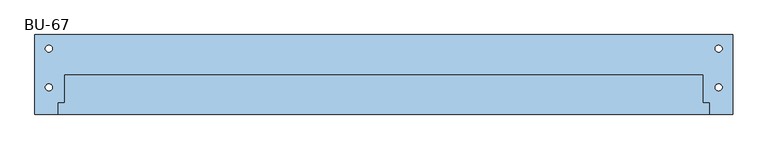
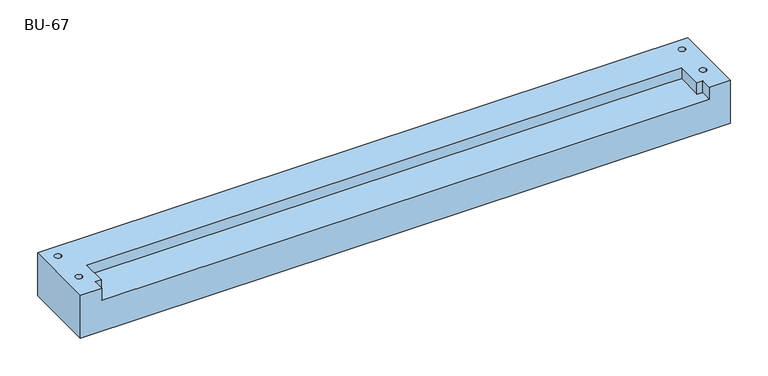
"""IFC4 building model written with IfcOpenShell, lengths in millimetres: window geometry, 30_NS_BU_67-72 : BU-67."""

from ifc_helpers import new_model, si_unit, frame, origin, place, context, project, spatial, polyline, circle_curve, source, transform, mapped, element, save
from ifc_brep_helpers import plane_surface, revolved_surface, advanced_brep


def bu_67_48a63875(model_context):
    return source(origin(), model_context, "Body", "AdvancedBrep", [
        advanced_brep(
        [(0.0, -114.0, 0.0), (0.0, 0.0, 0.0), (933.0, 0.0, 0.0), (1000.0, 0.0, 0.0), (1000.0, -114.0, 0.0), (15.0, -75.4521719, 0.0), (25.0, -75.4521719, 0.0), (15.0, -20.0, 0.0), (25.0, -20.0, 0.0), (975.0, -20.0, 0.0), (985.0, -20.0, 0.0), (975.0, -75.4521719, 0.0), (985.0, -75.4521719, 0.0), (0.0, -114.0, 70.0), (33.0, -114.0, 70.0), (33.0, -97.0, 70.0), (42.0, -97.0, 70.0), (42.0, -57.0, 70.0), (958.0, -57.0, 70.0), (958.0, -97.0, 70.0), (967.0, -97.0, 70.0), (967.0, -114.0, 70.0), (1000.0, -114.0, 70.0), (1000.0, 0.0, 70.0), (0.0, 0.0, 70.0), (25.0, -75.4521719, 70.0), (15.0, -75.4521719, 70.0), (25.0, -20.0, 70.0), (15.0, -20.0, 70.0), (985.0, -20.0, 70.0), (975.0, -20.0, 70.0), (985.0, -75.4521719, 70.0), (975.0, -75.4521719, 70.0), (42.0, -57.0, 52.6427741), (42.0, -97.0, 50.9631857), (33.0, -97.0, 50.9631857), (33.0, -114.0, 50.2493606), (967.0, -114.0, 50.2493606), (967.0, -97.0, 50.9631857), (958.0, -97.0, 50.9631857), (958.0, -57.0, 52.6427741), (933.0, -57.0, 52.6427741)],
        [
            (0, 1),
            (1, 2),
            (2, 3),
            (3, 4),
            (4, 0),
            (5, 6, circle_curve(frame((20.0, -75.4521719, 0.0), z_axis=(0.0, 0.0, 1.0), x_axis=(1.0, 0.0, 0.0)), 5.0)),
            (6, 5, circle_curve(frame((20.0, -75.4521719, 0.0), z_axis=(0.0, 0.0, 1.0), x_axis=(1.0, 0.0, 0.0)), 5.0)),
            (7, 8, circle_curve(frame((20.0, -20.0, 0.0), z_axis=(0.0, 0.0, 1.0), x_axis=(1.0, 0.0, 0.0)), 5.0)),
            (8, 7, circle_curve(frame((20.0, -20.0, 0.0), z_axis=(0.0, 0.0, 1.0), x_axis=(1.0, 0.0, 0.0)), 5.0)),
            (9, 10, circle_curve(frame((980.0, -20.0, 0.0), z_axis=(0.0, 0.0, 1.0), x_axis=(1.0, 0.0, 0.0)), 5.0)),
            (10, 9, circle_curve(frame((980.0, -20.0, 0.0), z_axis=(0.0, 0.0, 1.0), x_axis=(1.0, 0.0, 0.0)), 5.0)),
            (11, 12, circle_curve(frame((980.0, -75.4521719, 0.0), z_axis=(0.0, 0.0, 1.0), x_axis=(1.0, 0.0, 0.0)), 5.0)),
            (12, 11, circle_curve(frame((980.0, -75.4521719, 0.0), z_axis=(0.0, 0.0, 1.0), x_axis=(1.0, 0.0, 0.0)), 5.0)),
            (13, 14),
            (14, 15),
            (15, 16),
            (16, 17),
            (17, 18),
            (18, 19),
            (19, 20),
            (20, 21),
            (21, 22),
            (22, 23),
            (23, 24),
            (24, 13),
            (25, 26, circle_curve(frame((20.0, -75.4521719, 70.0), z_axis=(0.0, 0.0, -1.0), x_axis=(1.0, 0.0, 0.0)), 5.0)),
            (26, 25, circle_curve(frame((20.0, -75.4521719, 70.0), z_axis=(0.0, 0.0, -1.0), x_axis=(1.0, 0.0, 0.0)), 5.0)),
            (27, 28, circle_curve(frame((20.0, -20.0, 70.0), z_axis=(0.0, 0.0, -1.0), x_axis=(1.0, 0.0, 0.0)), 5.0)),
            (28, 27, circle_curve(frame((20.0, -20.0, 70.0), z_axis=(0.0, 0.0, -1.0), x_axis=(1.0, 0.0, 0.0)), 5.0)),
            (29, 30, circle_curve(frame((980.0, -20.0, 70.0), z_axis=(0.0, 0.0, -1.0), x_axis=(1.0, 0.0, 0.0)), 5.0)),
            (30, 29, circle_curve(frame((980.0, -20.0, 70.0), z_axis=(0.0, 0.0, -1.0), x_axis=(1.0, 0.0, 0.0)), 5.0)),
            (31, 32, circle_curve(frame((980.0, -75.4521719, 70.0), z_axis=(0.0, 0.0, -1.0), x_axis=(1.0, 0.0, 0.0)), 5.0)),
            (32, 31, circle_curve(frame((980.0, -75.4521719, 70.0), z_axis=(0.0, 0.0, -1.0), x_axis=(1.0, 0.0, 0.0)), 5.0)),
            (3, 23),
            (22, 4),
            (33, 34),
            (34, 35),
            (35, 36),
            (36, 37),
            (37, 38),
            (38, 39),
            (39, 40),
            (40, 41),
            (41, 33),
            (5, 26),
            (25, 6),
            (7, 28),
            (27, 8),
            (9, 30),
            (29, 10),
            (11, 32),
            (31, 12),
            (17, 33),
            (40, 18),
            (16, 34),
            (15, 35),
            (14, 36),
            (13, 0),
            (21, 37),
            (24, 1),
            (20, 38),
            (19, 39),
        ],
        [
            plane_surface(frame((0.0, 0.0, 0.0), z_axis=(0.0, 0.0, -1.0), x_axis=(1.0, 0.0, 0.0))),
            plane_surface(frame((0.0, 0.0, 70.0), z_axis=(0.0, 0.0, 1.0), x_axis=(1.0, 0.0, 0.0))),
            plane_surface(frame((1000.0, 0.0, 0.0), z_axis=(1.0, 0.0, 0.0), x_axis=(0.0, 0.0, 1.0))),
            plane_surface(frame((0.0, -114.0, 50.2493606), z_axis=(0.0, -0.04195274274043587, 0.9991195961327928), x_axis=(1.0, 0.0, 0.0))),
            revolved_surface(polyline([(25.0, -75.4521719, 0.0), (25.0, -75.4521719, 70.0)]), (20.0, -75.4521719, 0.0), (0.0, 0.0, -1.0)),
            revolved_surface(polyline([(25.0, -20.0, 0.0), (25.0, -20.0, 70.0)]), (20.0, -20.0, 0.0), (0.0, 0.0, -1.0)),
            revolved_surface(polyline([(985.0, -20.0, 0.0), (985.0, -20.0, 70.0)]), (980.0, -20.0, 0.0), (0.0, 0.0, -1.0)),
            revolved_surface(polyline([(985.0, -75.4521719, 0.0), (985.0, -75.4521719, 70.0)]), (980.0, -75.4521719, 0.0), (0.0, 0.0, -1.0)),
            plane_surface(frame((67.0, -57.0, 0.0), z_axis=(0.0, -1.0, 0.0), x_axis=(0.0, 0.0, 1.0))),
            plane_surface(frame((42.0, -57.0, 0.0), z_axis=(1.0, 0.0, 0.0), x_axis=(0.0, 0.0, 1.0))),
            plane_surface(frame((42.0, -97.0, 0.0), z_axis=(0.0, -1.0, 0.0), x_axis=(0.0, 0.0, 1.0))),
            plane_surface(frame((33.0, -97.0, 0.0), z_axis=(1.0, 0.0, 0.0), x_axis=(0.0, 0.0, 1.0))),
            plane_surface(frame((33.0, -114.0, 0.0), z_axis=(0.0, -1.0, 0.0), x_axis=(0.0, 0.0, 1.0))),
            plane_surface(frame((0.0, -114.0, 0.0), z_axis=(-1.0, 0.0, 0.0), x_axis=(0.0, 0.0, 1.0))),
            plane_surface(frame((0.0, 0.0, 0.0), z_axis=(0.0, 1.0, 0.0), x_axis=(0.0, 0.0, 1.0))),
            plane_surface(frame((967.0, -114.0, 0.0), z_axis=(-1.0, 0.0, 0.0), x_axis=(0.0, 0.0, 1.0))),
            plane_surface(frame((967.0, -97.0, 0.0), z_axis=(0.0, -1.0, 0.0), x_axis=(0.0, 0.0, 1.0))),
            plane_surface(frame((958.0, -97.0, 0.0), z_axis=(-1.0, 0.0, 0.0), x_axis=(0.0, 0.0, 1.0))),
        ],
        [
            (0, [[1, 2, 3, 4, 5], [6, 7], [8, 9], [10, 11], [12, 13]]),
            (1, [[14, 15, 16, 17, 18, 19, 20, 21, 22, 23, 24, 25], [26, 27], [28, 29], [30, 31], [32, 33]]),
            (2, [[-4, 34, -23, 35]]),
            (3, [[36, 37, 38, 39, 40, 41, 42, 43, 44]]),
            (4, [[45, -26, 46, -6]]),
            (4, [[-45, -7, -46, -27]]),
            (5, [[47, -28, 48, -8]]),
            (5, [[-47, -9, -48, -29]]),
            (6, [[49, -30, 50, -10]]),
            (6, [[-49, -11, -50, -31]]),
            (7, [[51, -32, 52, -12]]),
            (7, [[-51, -13, -52, -33]]),
            (8, [[53, -44, -43, 54, -18]]),
            (9, [[-17, 55, -36, -53]]),
            (10, [[-16, 56, -37, -55]]),
            (11, [[-15, 57, -38, -56]]),
            (12, [[-14, 58, -5, -35, -22, 59, -39, -57]]),
            (13, [[-1, -58, -25, 60]]),
            (14, [[-60, -24, -34, -3, -2]]),
            (15, [[-21, 61, -40, -59]]),
            (16, [[-20, 62, -41, -61]]),
            (17, [[-19, -54, -42, -62]]),
        ],
    ),
    ])


if __name__ == "__main__":
    model = new_model("IFC4")
    model_context = context("Model", 3, world=origin())
    ifc_project = project(units=[si_unit("LENGTHUNIT", "METRE", prefix="MILLI")], contexts=[model_context])
    site = spatial("IfcSite", under=ifc_project)
    building = spatial("IfcBuilding", under=site)
    placement = place(None, origin())
    bu_67_shape = bu_67_48a63875(model_context)
    element("IfcWindow", 1, ObjectType="30_NS_BU_67-72 : BU-67", at=placement, inside=building, context=model_context, shape_type="MappedRepresentation", body=[
        mapped(bu_67_shape, transform((0.0, 0.0, 0.0), x_axis=(1.0, 0.0, 0.0), y_axis=(0.0, 1.0, 0.0), z_axis=(0.0, 0.0, 1.0))),
    ])
    save(model, "model.ifc")
